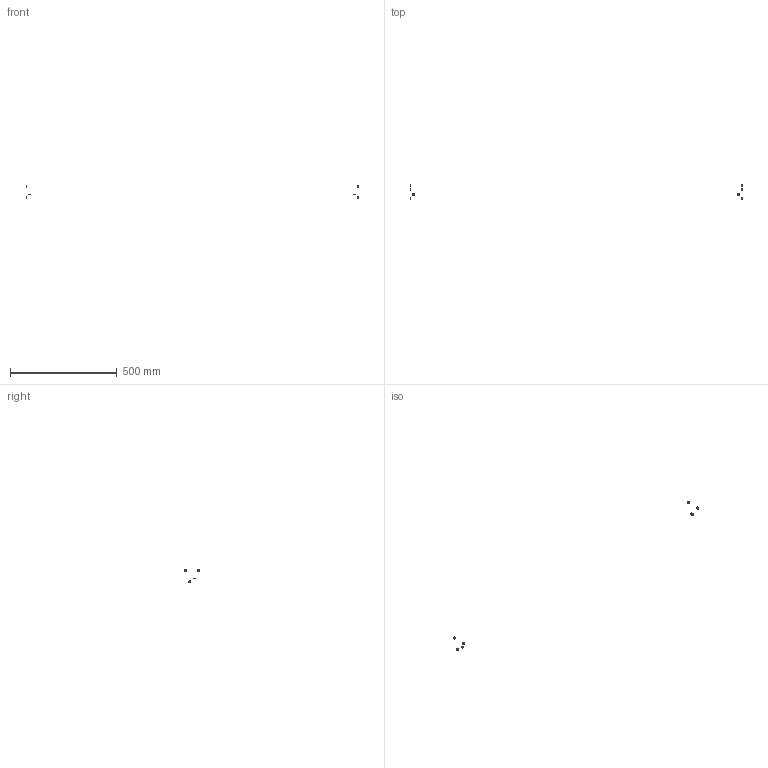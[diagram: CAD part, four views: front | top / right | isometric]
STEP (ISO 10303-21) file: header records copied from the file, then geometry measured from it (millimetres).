
FILE_DESCRIPTION(/* description */ (''),/* implementation_level */ '2;1');
FILE_NAME(/* name */ 'Y-AF08~1',/* time_stamp */ '2014-02-14T19:38:01+01:00',/* author */ (''),/* organization */ (''),/* preprocessor_version */ 'ST-DEVELOPER v14',/* originating_system */ '',/* authorisation */ '');
FILE_SCHEMA (('AUTOMOTIVE_DESIGN'));
Length unit declared in the file: millimetre
Products named in the file (2): Document; washer DIN125-like, form A, M5
Assembly tree (11 placements, depth 2):
  Document
    washer DIN125-like, form A, M5  x11
Bounding box: 1558 x 70 x 63.97 mm (x, y, z)
Surface area: 3547.9 mm2 (no closed solid volume)
Topology: 0 solids, 132 shells, 132 faces, 440 edges, 440 vertices
Faces by surface type: bspline 88, plane 44
Entity records: 6057 total; most frequent: CARTESIAN_POINT 3062, B_SPLINE_CURVE_WITH_KNOTS 288, ORIENTED_EDGE 240, PCURVE 240, DEFINITIONAL_REPRESENTATION 240, SURFACE_CURVE 240, EDGE_CURVE 240, VERTEX_POINT 240
